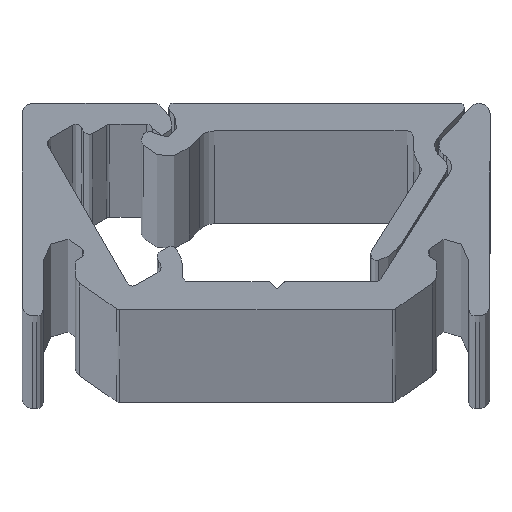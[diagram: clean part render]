
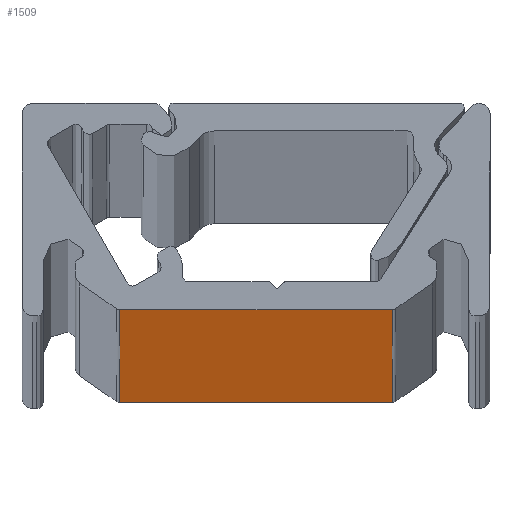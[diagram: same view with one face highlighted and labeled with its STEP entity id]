
A CAD part, top view. The second image highlights one B-rep face of the part: STEP entity #1509.
In plain terms, the highlighted planar face has unit normal (0, -1, 0).
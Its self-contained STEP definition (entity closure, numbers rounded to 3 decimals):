
#160 = AXIS2_PLACEMENT_3D ( 'NONE', #2700, #3552, #1304 ) ;
#299 = LINE ( 'NONE', #2629, #951 ) ;
#426 = FACE_OUTER_BOUND ( 'NONE', #2598, .T. ) ;
#745 = EDGE_CURVE ( 'NONE', #755, #1683, #299, .T. ) ;
#755 = VERTEX_POINT ( 'NONE', #1709 ) ;
#816 = ORIENTED_EDGE ( 'NONE', *, *, #2174, .F. ) ;
#846 = DIRECTION ( 'NONE',  ( 1., 0., 0. ) ) ;
#951 = VECTOR ( 'NONE', #1200, 1000. ) ;
#1136 = VECTOR ( 'NONE', #2035, 1000. ) ;
#1184 = CARTESIAN_POINT ( 'NONE',  ( 6.406, 0.3, 2500. ) ) ;
#1200 = DIRECTION ( 'NONE',  ( 0., 0., -1. ) ) ;
#1234 = EDGE_CURVE ( 'NONE', #2572, #3668, #1982, .T. ) ;
#1304 = DIRECTION ( 'NONE',  ( 0., 0., 1. ) ) ;
#1467 = CARTESIAN_POINT ( 'NONE',  ( -6.406, 0.3, 0. ) ) ;
#1509 = ADVANCED_FACE ( 'NONE', ( #426 ), #1556, .F. ) ;
#1539 = ORIENTED_EDGE ( 'NONE', *, *, #745, .T. ) ;
#1545 = ORIENTED_EDGE ( 'NONE', *, *, #1234, .F. ) ;
#1556 = PLANE ( 'NONE',  #160 ) ;
#1683 = VERTEX_POINT ( 'NONE', #1467 ) ;
#1709 = CARTESIAN_POINT ( 'NONE',  ( -6.406, 0.3, 2500. ) ) ;
#1930 = DIRECTION ( 'NONE',  ( 1., 0., 0. ) ) ;
#1982 = LINE ( 'NONE', #2307, #1136 ) ;
#2035 = DIRECTION ( 'NONE',  ( 0., 0., -1. ) ) ;
#2174 = EDGE_CURVE ( 'NONE', #755, #2572, #3116, .T. ) ;
#2243 = CARTESIAN_POINT ( 'NONE',  ( -6.406, 0.3, 0. ) ) ;
#2258 = CARTESIAN_POINT ( 'NONE',  ( -6.406, 0.3, 2500. ) ) ;
#2307 = CARTESIAN_POINT ( 'NONE',  ( 6.406, 0.3, 2500. ) ) ;
#2572 = VERTEX_POINT ( 'NONE', #1184 ) ;
#2598 = EDGE_LOOP ( 'NONE', ( #2805, #1545, #816, #1539 ) ) ;
#2629 = CARTESIAN_POINT ( 'NONE',  ( -6.406, 0.3, 2500. ) ) ;
#2697 = VECTOR ( 'NONE', #1930, 1000. ) ;
#2700 = CARTESIAN_POINT ( 'NONE',  ( -6.406, 0.3, 2500. ) ) ;
#2805 = ORIENTED_EDGE ( 'NONE', *, *, #2914, .T. ) ;
#2914 = EDGE_CURVE ( 'NONE', #1683, #3668, #3361, .T. ) ;
#3116 = LINE ( 'NONE', #2258, #3374 ) ;
#3361 = LINE ( 'NONE', #2243, #2697 ) ;
#3374 = VECTOR ( 'NONE', #846, 1000. ) ;
#3552 = DIRECTION ( 'NONE',  ( 0., 1., 0. ) ) ;
#3557 = CARTESIAN_POINT ( 'NONE',  ( 6.406, 0.3, 0. ) ) ;
#3668 = VERTEX_POINT ( 'NONE', #3557 ) ;
